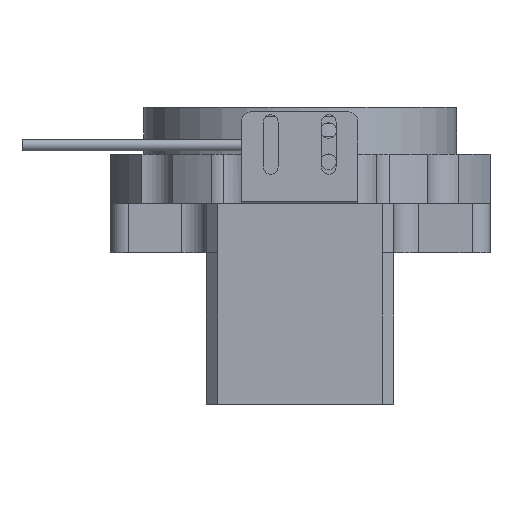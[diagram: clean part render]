
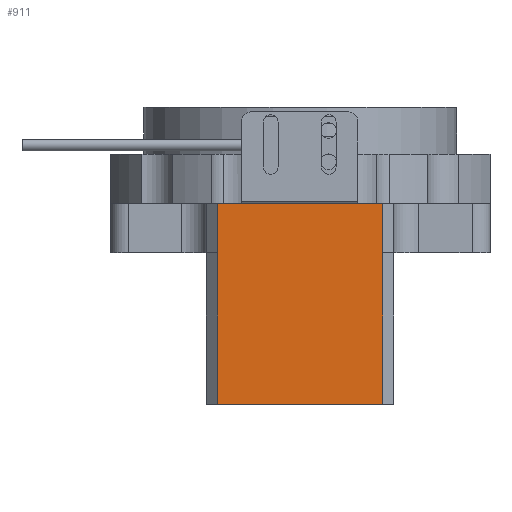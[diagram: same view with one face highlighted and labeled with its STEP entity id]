
A CAD part, front view. The second image highlights one B-rep face of the part: STEP entity #911.
In plain terms, the highlighted planar face has unit normal (0, -1, 0).
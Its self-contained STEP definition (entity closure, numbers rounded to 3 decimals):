
#171 = CARTESIAN_POINT ( 'NONE',  ( -16.845, -54.161, 11.75 ) ) ;
#406 = FACE_OUTER_BOUND ( 'NONE', #2806, .T. ) ;
#459 = VERTEX_POINT ( 'NONE', #5503 ) ;
#603 = VERTEX_POINT ( 'NONE', #3141 ) ;
#725 = LINE ( 'NONE', #4090, #7193 ) ;
#845 = EDGE_CURVE ( 'NONE', #459, #6494, #2071, .T. ) ;
#911 = ADVANCED_FACE ( 'NONE', ( #406 ), #3609, .F. ) ;
#1071 = EDGE_CURVE ( 'NONE', #6494, #603, #725, .T. ) ;
#1243 = ORIENTED_EDGE ( 'NONE', *, *, #845, .T. ) ;
#1577 = EDGE_CURVE ( 'NONE', #459, #3707, #5732, .T. ) ;
#1612 = CARTESIAN_POINT ( 'NONE',  ( -35.345, -54.161, 0.75 ) ) ;
#1674 = DIRECTION ( 'NONE',  ( 1., 0., 0. ) ) ;
#1925 = DIRECTION ( 'NONE',  ( 0., 0., -1. ) ) ;
#2071 = LINE ( 'NONE', #8263, #8535 ) ;
#2127 = VECTOR ( 'NONE', #8155, 1000. ) ;
#2442 = DIRECTION ( 'NONE',  ( -1., 0., 0. ) ) ;
#2591 = LINE ( 'NONE', #4024, #8649 ) ;
#2736 = DIRECTION ( 'NONE',  ( 0., 0., 1. ) ) ;
#2806 = EDGE_LOOP ( 'NONE', ( #4430, #7301, #7518, #1243, #6058, #3987 ) ) ;
#2868 = DIRECTION ( 'NONE',  ( 0., 0., 1. ) ) ;
#3141 = CARTESIAN_POINT ( 'NONE',  ( 1.655, -54.161, 11.75 ) ) ;
#3355 = VERTEX_POINT ( 'NONE', #5964 ) ;
#3536 = EDGE_CURVE ( 'NONE', #3355, #603, #5477, .T. ) ;
#3609 = PLANE ( 'NONE',  #8107 ) ;
#3686 = VERTEX_POINT ( 'NONE', #1612 ) ;
#3707 = VERTEX_POINT ( 'NONE', #7758 ) ;
#3779 = CARTESIAN_POINT ( 'NONE',  ( 1.655, -54.161, 0.75 ) ) ;
#3987 = ORIENTED_EDGE ( 'NONE', *, *, #3536, .F. ) ;
#4024 = CARTESIAN_POINT ( 'NONE',  ( -35.345, -54.161, 33.25 ) ) ;
#4090 = CARTESIAN_POINT ( 'NONE',  ( 1.655, -54.161, 11.75 ) ) ;
#4337 = VECTOR ( 'NONE', #2442, 1000. ) ;
#4430 = ORIENTED_EDGE ( 'NONE', *, *, #8040, .T. ) ;
#5071 = CARTESIAN_POINT ( 'NONE',  ( 4.155, -54.161, -33.25 ) ) ;
#5477 = LINE ( 'NONE', #171, #2127 ) ;
#5503 = CARTESIAN_POINT ( 'NONE',  ( 1.655, -54.161, -33.25 ) ) ;
#5732 = LINE ( 'NONE', #5071, #4337 ) ;
#5754 = CARTESIAN_POINT ( 'NONE',  ( -16.845, -54.161, 33.25 ) ) ;
#5799 = DIRECTION ( 'NONE',  ( 0., 1., 0. ) ) ;
#5964 = CARTESIAN_POINT ( 'NONE',  ( -35.345, -54.161, 11.75 ) ) ;
#6058 = ORIENTED_EDGE ( 'NONE', *, *, #1071, .T. ) ;
#6494 = VERTEX_POINT ( 'NONE', #3779 ) ;
#6647 = EDGE_CURVE ( 'NONE', #3686, #3707, #2591, .T. ) ;
#7193 = VECTOR ( 'NONE', #2868, 1000. ) ;
#7301 = ORIENTED_EDGE ( 'NONE', *, *, #6647, .T. ) ;
#7518 = ORIENTED_EDGE ( 'NONE', *, *, #1577, .F. ) ;
#7758 = CARTESIAN_POINT ( 'NONE',  ( -35.345, -54.161, -33.25 ) ) ;
#8040 = EDGE_CURVE ( 'NONE', #3355, #3686, #8379, .T. ) ;
#8077 = DIRECTION ( 'NONE',  ( 0., 0., -1. ) ) ;
#8107 = AXIS2_PLACEMENT_3D ( 'NONE', #5754, #5799, #1674 ) ;
#8108 = VECTOR ( 'NONE', #8077, 1000. ) ;
#8155 = DIRECTION ( 'NONE',  ( 1., 0., 0. ) ) ;
#8263 = CARTESIAN_POINT ( 'NONE',  ( 1.655, -54.161, 0.75 ) ) ;
#8291 = CARTESIAN_POINT ( 'NONE',  ( -35.345, -54.161, 33.25 ) ) ;
#8379 = LINE ( 'NONE', #8291, #8108 ) ;
#8535 = VECTOR ( 'NONE', #2736, 1000. ) ;
#8649 = VECTOR ( 'NONE', #1925, 1000. ) ;
